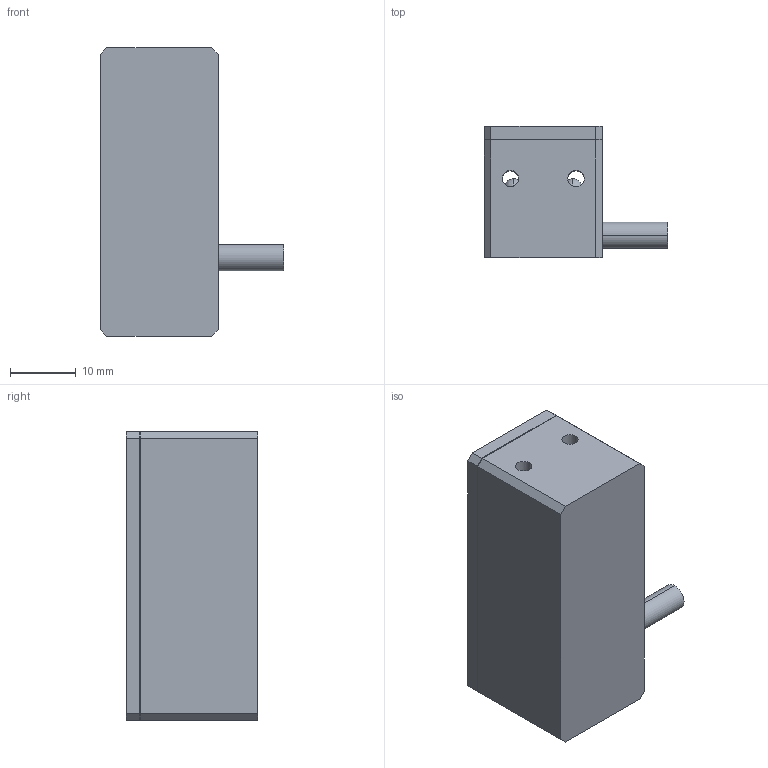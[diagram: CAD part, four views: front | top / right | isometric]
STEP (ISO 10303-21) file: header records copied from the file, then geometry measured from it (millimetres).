
FILE_DESCRIPTION (( 'STEP AP203' ), '1' );
FILE_NAME ('TR4418-W.STEP', '2021-10-13T07:54:00', ( 'Windows 蚚誧' ), ( 'Microsoft' ), 'SwSTEP 2.0', 'SolidWorks 2016', '' );
FILE_SCHEMA (( 'CONFIG_CONTROL_DESIGN' ));
Length unit declared in the file: millimetre
Products named in the file (1): TR4418-W
Bounding box: 28 x 20 x 44 mm (x, y, z)
Volume: 11364.3 mm3; surface area: 7750.9 mm2
Topology: 2 solids, 2 shells, 187 faces, 492 edges, 307 vertices
Faces by surface type: cylinder 98, plane 47, sphere 42
Entity records: 5343 total; most frequent: DIRECTION 1014, CARTESIAN_POINT 917, ORIENTED_EDGE 816, AXIS2_PLACEMENT_3D 426, EDGE_CURVE 408, VERTEX_POINT 265, CIRCLE 238, EDGE_LOOP 235
